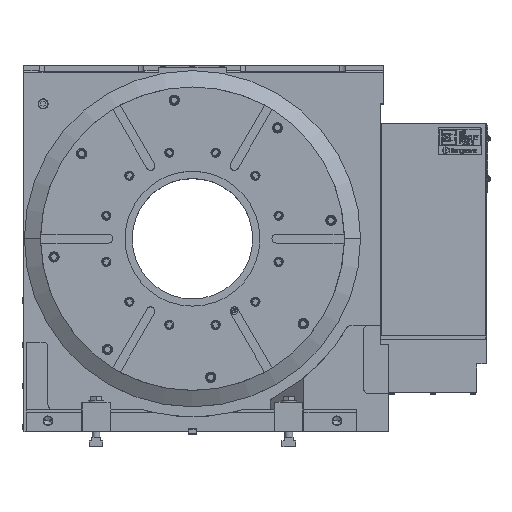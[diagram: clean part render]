
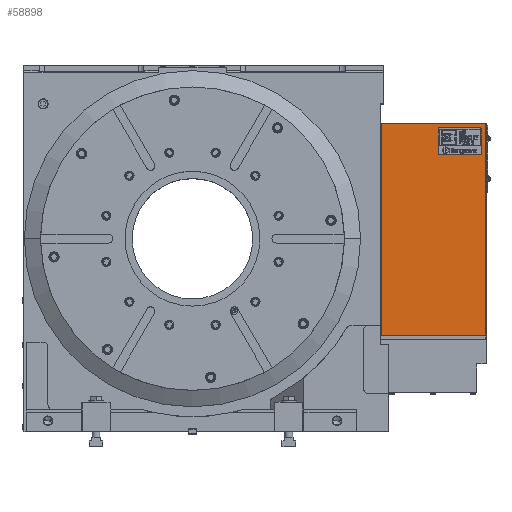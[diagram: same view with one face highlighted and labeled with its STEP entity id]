
A CAD part, top view. The second image highlights one B-rep face of the part: STEP entity #58898.
In plain terms, the highlighted planar face has unit normal (0, 0, 1).
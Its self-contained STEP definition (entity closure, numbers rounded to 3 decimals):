
#1786 = DIRECTION ( 'NONE',  ( 0., 1., 0. ) ) ;
#3399 = CARTESIAN_POINT ( 'NONE',  ( 2., 0., 0. ) ) ;
#4611 = DIRECTION ( 'NONE',  ( 1., 0., 0. ) ) ;
#7071 = EDGE_CURVE ( 'NONE', #59066, #95186, #9570, .T. ) ;
#8994 = EDGE_CURVE ( 'NONE', #59066, #86084, #109656, .T. ) ;
#9570 = LINE ( 'NONE', #13247, #95531 ) ;
#13247 = CARTESIAN_POINT ( 'NONE',  ( 0., 442., 0. ) ) ;
#28570 = DIRECTION ( 'NONE',  ( 0., -1., 0. ) ) ;
#34610 = CARTESIAN_POINT ( 'NONE',  ( 2., 442., 0. ) ) ;
#34621 = DIRECTION ( 'NONE',  ( 1., 0., 0. ) ) ;
#35452 = VECTOR ( 'NONE', #1786, 1000. ) ;
#39100 = ORIENTED_EDGE ( 'NONE', *, *, #8994, .T. ) ;
#39746 = VERTEX_POINT ( 'NONE', #96204 ) ;
#43219 = CARTESIAN_POINT ( 'NONE',  ( 0., 0., 0. ) ) ;
#48139 = DIRECTION ( 'NONE',  ( 0., 0., -1. ) ) ;
#48338 = CARTESIAN_POINT ( 'NONE',  ( 218., 442., 0. ) ) ;
#49538 = VECTOR ( 'NONE', #34621, 1000. ) ;
#57152 = FACE_OUTER_BOUND ( 'NONE', #77422, .T. ) ;
#58898 = ADVANCED_FACE ( 'NONE', ( #57152 ), #90507, .F. ) ;
#59066 = VERTEX_POINT ( 'NONE', #34610 ) ;
#61390 = VECTOR ( 'NONE', #28570, 1000. ) ;
#67453 = AXIS2_PLACEMENT_3D ( 'NONE', #73345, #48139, #108122 ) ;
#73345 = CARTESIAN_POINT ( 'NONE',  ( 0., 442., 0. ) ) ;
#77422 = EDGE_LOOP ( 'NONE', ( #107993, #39100, #79273, #82098 ) ) ;
#79273 = ORIENTED_EDGE ( 'NONE', *, *, #105840, .T. ) ;
#79951 = CARTESIAN_POINT ( 'NONE',  ( 2., 442., 0. ) ) ;
#81078 = LINE ( 'NONE', #104628, #35452 ) ;
#82098 = ORIENTED_EDGE ( 'NONE', *, *, #104168, .T. ) ;
#86084 = VERTEX_POINT ( 'NONE', #3399 ) ;
#90507 = PLANE ( 'NONE',  #67453 ) ;
#95151 = LINE ( 'NONE', #43219, #49538 ) ;
#95186 = VERTEX_POINT ( 'NONE', #48338 ) ;
#95531 = VECTOR ( 'NONE', #4611, 1000. ) ;
#96204 = CARTESIAN_POINT ( 'NONE',  ( 218., 0., 0. ) ) ;
#104168 = EDGE_CURVE ( 'NONE', #39746, #95186, #81078, .T. ) ;
#104628 = CARTESIAN_POINT ( 'NONE',  ( 218., 442., 0. ) ) ;
#105840 = EDGE_CURVE ( 'NONE', #86084, #39746, #95151, .T. ) ;
#107993 = ORIENTED_EDGE ( 'NONE', *, *, #7071, .F. ) ;
#108122 = DIRECTION ( 'NONE',  ( -1., 0., 0. ) ) ;
#109656 = LINE ( 'NONE', #79951, #61390 ) ;
